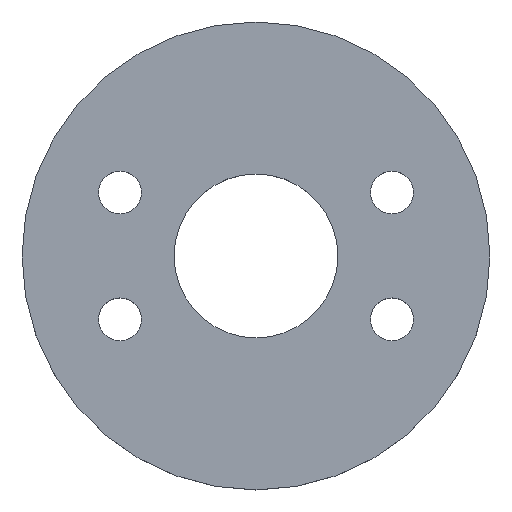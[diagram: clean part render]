
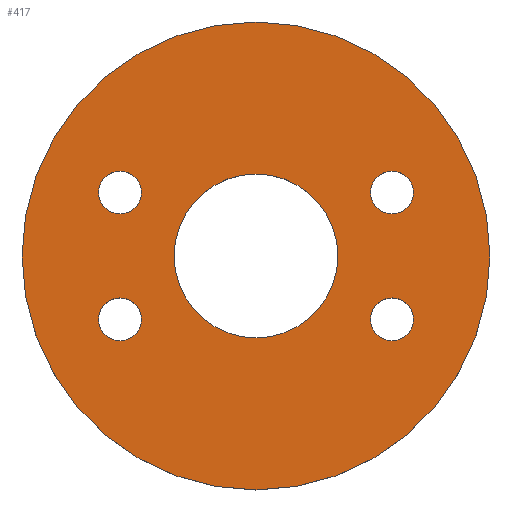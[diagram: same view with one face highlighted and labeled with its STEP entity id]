
A CAD part, top view. The second image highlights one B-rep face of the part: STEP entity #417.
In plain terms, the highlighted planar face has unit normal (0, 0, 1).
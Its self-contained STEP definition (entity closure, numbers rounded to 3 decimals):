
#2 = AXIS2_PLACEMENT_3D ( 'NONE', #470, #312, #302 ) ;
#8 = CARTESIAN_POINT ( 'NONE',  ( -187.5, 0., 40. ) ) ;
#13 = ORIENTED_EDGE ( 'NONE', *, *, #149, .F. ) ;
#16 = EDGE_CURVE ( 'NONE', #354, #358, #356, .T. ) ;
#24 = AXIS2_PLACEMENT_3D ( 'NONE', #388, #326, #538 ) ;
#25 = ORIENTED_EDGE ( 'NONE', *, *, #16, .F. ) ;
#28 = VERTEX_POINT ( 'NONE', #54 ) ;
#29 = CARTESIAN_POINT ( 'NONE',  ( -535.5, 0., 40. ) ) ;
#32 = VERTEX_POINT ( 'NONE', #344 ) ;
#51 = DIRECTION ( 'NONE',  ( 1., 0., 0. ) ) ;
#54 = CARTESIAN_POINT ( 'NONE',  ( -360.317, 145.169, 40. ) ) ;
#56 = AXIS2_PLACEMENT_3D ( 'NONE', #89, #196, #234 ) ;
#59 = VERTEX_POINT ( 'NONE', #29 ) ;
#61 = ORIENTED_EDGE ( 'NONE', *, *, #507, .T. ) ;
#62 = FACE_OUTER_BOUND ( 'NONE', #386, .T. ) ;
#63 = VERTEX_POINT ( 'NONE', #442 ) ;
#66 = ORIENTED_EDGE ( 'NONE', *, *, #339, .F. ) ;
#68 = VERTEX_POINT ( 'NONE', #408 ) ;
#76 = VERTEX_POINT ( 'NONE', #359 ) ;
#79 = FACE_BOUND ( 'NONE', #136, .T. ) ;
#83 = DIRECTION ( 'NONE',  ( -1., 0., 0. ) ) ;
#84 = EDGE_LOOP ( 'NONE', ( #476, #25 ) ) ;
#85 = EDGE_LOOP ( 'NONE', ( #66, #346 ) ) ;
#89 = CARTESIAN_POINT ( 'NONE',  ( -311.317, -145.169, 40. ) ) ;
#92 = EDGE_LOOP ( 'NONE', ( #363, #435 ) ) ;
#96 = EDGE_CURVE ( 'NONE', #28, #98, #529, .T. ) ;
#98 = VERTEX_POINT ( 'NONE', #215 ) ;
#103 = ORIENTED_EDGE ( 'NONE', *, *, #445, .F. ) ;
#108 = AXIS2_PLACEMENT_3D ( 'NONE', #262, #259, #523 ) ;
#109 = EDGE_LOOP ( 'NONE', ( #13, #103 ) ) ;
#114 = CIRCLE ( 'NONE', #150, 49. ) ;
#115 = ORIENTED_EDGE ( 'NONE', *, *, #281, .T. ) ;
#132 = ORIENTED_EDGE ( 'NONE', *, *, #96, .F. ) ;
#136 = EDGE_LOOP ( 'NONE', ( #172, #132 ) ) ;
#137 = CARTESIAN_POINT ( 'NONE',  ( 360.317, -145.169, 40. ) ) ;
#138 = VERTEX_POINT ( 'NONE', #323 ) ;
#143 = CARTESIAN_POINT ( 'NONE',  ( 535.5, 0., 40. ) ) ;
#149 = EDGE_CURVE ( 'NONE', #165, #76, #398, .T. ) ;
#150 = AXIS2_PLACEMENT_3D ( 'NONE', #490, #267, #516 ) ;
#158 = CARTESIAN_POINT ( 'NONE',  ( 0., 0., 40. ) ) ;
#161 = CIRCLE ( 'NONE', #515, 49. ) ;
#165 = VERTEX_POINT ( 'NONE', #8 ) ;
#168 = DIRECTION ( 'NONE',  ( 1., 0., 0. ) ) ;
#172 = ORIENTED_EDGE ( 'NONE', *, *, #177, .F. ) ;
#174 = CARTESIAN_POINT ( 'NONE',  ( 0., 0., 40. ) ) ;
#175 = AXIS2_PLACEMENT_3D ( 'NONE', #486, #310, #83 ) ;
#177 = EDGE_CURVE ( 'NONE', #98, #28, #114, .T. ) ;
#186 = DIRECTION ( 'NONE',  ( -1., 0., 0. ) ) ;
#189 = CIRCLE ( 'NONE', #222, 187.5 ) ;
#193 = CARTESIAN_POINT ( 'NONE',  ( 0., 0., 40. ) ) ;
#196 = DIRECTION ( 'NONE',  ( 0., 0., 1. ) ) ;
#202 = FACE_BOUND ( 'NONE', #85, .T. ) ;
#208 = CARTESIAN_POINT ( 'NONE',  ( 311.317, 145.169, 40. ) ) ;
#213 = CIRCLE ( 'NONE', #376, 535.5 ) ;
#215 = CARTESIAN_POINT ( 'NONE',  ( -262.317, 145.169, 40. ) ) ;
#222 = AXIS2_PLACEMENT_3D ( 'NONE', #494, #460, #419 ) ;
#225 = PLANE ( 'NONE',  #249 ) ;
#234 = DIRECTION ( 'NONE',  ( 1., 0., 0. ) ) ;
#243 = EDGE_CURVE ( 'NONE', #63, #138, #301, .T. ) ;
#245 = DIRECTION ( 'NONE',  ( 0., 0., 1. ) ) ;
#249 = AXIS2_PLACEMENT_3D ( 'NONE', #193, #491, #409 ) ;
#251 = DIRECTION ( 'NONE',  ( 1., 0., 0. ) ) ;
#256 = CARTESIAN_POINT ( 'NONE',  ( -311.317, -145.169, 40. ) ) ;
#258 = AXIS2_PLACEMENT_3D ( 'NONE', #256, #296, #251 ) ;
#259 = DIRECTION ( 'NONE',  ( 0., 0., 1. ) ) ;
#262 = CARTESIAN_POINT ( 'NONE',  ( 0., 0., 40. ) ) ;
#267 = DIRECTION ( 'NONE',  ( 0., 0., 1. ) ) ;
#281 = EDGE_CURVE ( 'NONE', #380, #59, #213, .T. ) ;
#282 = CIRCLE ( 'NONE', #24, 49. ) ;
#291 = CARTESIAN_POINT ( 'NONE',  ( 311.317, -145.169, 40. ) ) ;
#296 = DIRECTION ( 'NONE',  ( 0., 0., 1. ) ) ;
#301 = CIRCLE ( 'NONE', #258, 49. ) ;
#302 = DIRECTION ( 'NONE',  ( -1., 0., 0. ) ) ;
#308 = FACE_BOUND ( 'NONE', #84, .T. ) ;
#310 = DIRECTION ( 'NONE',  ( 0., 0., 1. ) ) ;
#312 = DIRECTION ( 'NONE',  ( 0., 0., 1. ) ) ;
#323 = CARTESIAN_POINT ( 'NONE',  ( -262.317, -145.169, 40. ) ) ;
#326 = DIRECTION ( 'NONE',  ( 0., 0., 1. ) ) ;
#329 = EDGE_CURVE ( 'NONE', #32, #68, #161, .T. ) ;
#339 = EDGE_CURVE ( 'NONE', #68, #32, #282, .T. ) ;
#344 = CARTESIAN_POINT ( 'NONE',  ( 262.317, 145.169, 40. ) ) ;
#345 = AXIS2_PLACEMENT_3D ( 'NONE', #158, #508, #51 ) ;
#346 = ORIENTED_EDGE ( 'NONE', *, *, #329, .F. ) ;
#354 = VERTEX_POINT ( 'NONE', #452 ) ;
#356 = CIRCLE ( 'NONE', #437, 49. ) ;
#358 = VERTEX_POINT ( 'NONE', #137 ) ;
#359 = CARTESIAN_POINT ( 'NONE',  ( 187.5, 0., 40. ) ) ;
#363 = ORIENTED_EDGE ( 'NONE', *, *, #383, .F. ) ;
#376 = AXIS2_PLACEMENT_3D ( 'NONE', #174, #245, #461 ) ;
#380 = VERTEX_POINT ( 'NONE', #143 ) ;
#383 = EDGE_CURVE ( 'NONE', #138, #63, #534, .T. ) ;
#386 = EDGE_LOOP ( 'NONE', ( #61, #115 ) ) ;
#388 = CARTESIAN_POINT ( 'NONE',  ( 311.317, 145.169, 40. ) ) ;
#389 = DIRECTION ( 'NONE',  ( 0., 0., 1. ) ) ;
#392 = FACE_BOUND ( 'NONE', #92, .T. ) ;
#398 = CIRCLE ( 'NONE', #108, 187.5 ) ;
#408 = CARTESIAN_POINT ( 'NONE',  ( 360.317, 145.169, 40. ) ) ;
#409 = DIRECTION ( 'NONE',  ( 1., 0., 0. ) ) ;
#412 = EDGE_CURVE ( 'NONE', #358, #354, #502, .T. ) ;
#417 = ADVANCED_FACE ( 'NONE', ( #79, #392, #308, #202, #62, #488 ), #225, .T. ) ;
#419 = DIRECTION ( 'NONE',  ( 1., 0., 0. ) ) ;
#435 = ORIENTED_EDGE ( 'NONE', *, *, #243, .F. ) ;
#437 = AXIS2_PLACEMENT_3D ( 'NONE', #291, #518, #186 ) ;
#442 = CARTESIAN_POINT ( 'NONE',  ( -360.317, -145.169, 40. ) ) ;
#444 = CIRCLE ( 'NONE', #345, 535.5 ) ;
#445 = EDGE_CURVE ( 'NONE', #76, #165, #189, .T. ) ;
#452 = CARTESIAN_POINT ( 'NONE',  ( 262.317, -145.169, 40. ) ) ;
#460 = DIRECTION ( 'NONE',  ( 0., 0., 1. ) ) ;
#461 = DIRECTION ( 'NONE',  ( 1., 0., 0. ) ) ;
#470 = CARTESIAN_POINT ( 'NONE',  ( -311.317, 145.169, 40. ) ) ;
#476 = ORIENTED_EDGE ( 'NONE', *, *, #412, .F. ) ;
#486 = CARTESIAN_POINT ( 'NONE',  ( 311.317, -145.169, 40. ) ) ;
#488 = FACE_BOUND ( 'NONE', #109, .T. ) ;
#490 = CARTESIAN_POINT ( 'NONE',  ( -311.317, 145.169, 40. ) ) ;
#491 = DIRECTION ( 'NONE',  ( 0., 0., 1. ) ) ;
#494 = CARTESIAN_POINT ( 'NONE',  ( 0., 0., 40. ) ) ;
#502 = CIRCLE ( 'NONE', #175, 49. ) ;
#507 = EDGE_CURVE ( 'NONE', #59, #380, #444, .T. ) ;
#508 = DIRECTION ( 'NONE',  ( 0., 0., 1. ) ) ;
#515 = AXIS2_PLACEMENT_3D ( 'NONE', #208, #389, #168 ) ;
#516 = DIRECTION ( 'NONE',  ( -1., 0., 0. ) ) ;
#518 = DIRECTION ( 'NONE',  ( 0., 0., 1. ) ) ;
#523 = DIRECTION ( 'NONE',  ( 1., 0., 0. ) ) ;
#529 = CIRCLE ( 'NONE', #2, 49. ) ;
#534 = CIRCLE ( 'NONE', #56, 49. ) ;
#538 = DIRECTION ( 'NONE',  ( 1., 0., 0. ) ) ;
